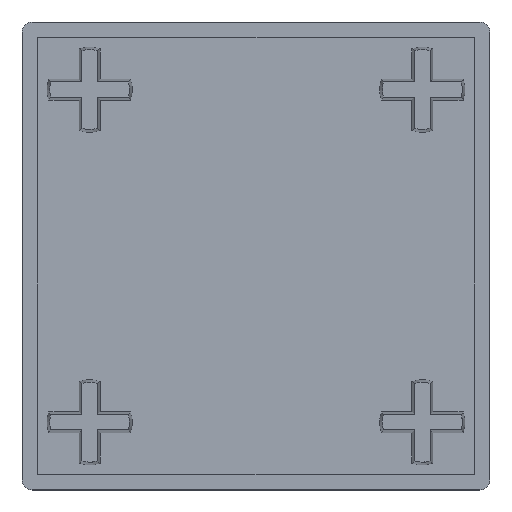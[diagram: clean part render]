
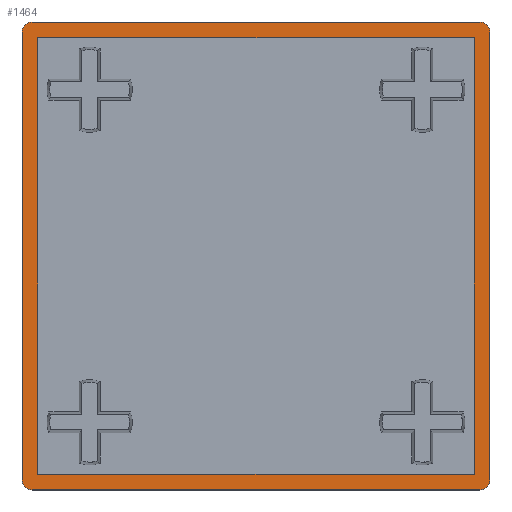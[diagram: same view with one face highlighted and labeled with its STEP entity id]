
A CAD part, top view. The second image highlights one B-rep face of the part: STEP entity #1464.
In plain terms, the highlighted planar face has unit normal (0, 0, 1).
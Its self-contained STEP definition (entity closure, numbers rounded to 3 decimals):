
#2 = VERTEX_POINT ( 'NONE', #1469 ) ;
#30 = DIRECTION ( 'NONE',  ( 0., 0., 1. ) ) ;
#47 = CARTESIAN_POINT ( 'NONE',  ( -21.5, -22.5, 5. ) ) ;
#76 = CARTESIAN_POINT ( 'NONE',  ( 0., 0., 5. ) ) ;
#89 = DIRECTION ( 'NONE',  ( -1., 0., 0. ) ) ;
#90 = ORIENTED_EDGE ( 'NONE', *, *, #896, .T. ) ;
#95 = CARTESIAN_POINT ( 'NONE',  ( -21., 21., 5. ) ) ;
#126 = ORIENTED_EDGE ( 'NONE', *, *, #765, .T. ) ;
#129 = LINE ( 'NONE', #163, #1340 ) ;
#132 = EDGE_CURVE ( 'NONE', #2179, #1301, #2269, .T. ) ;
#141 = DIRECTION ( 'NONE',  ( 0., 1., 0. ) ) ;
#142 = ORIENTED_EDGE ( 'NONE', *, *, #750, .T. ) ;
#163 = CARTESIAN_POINT ( 'NONE',  ( -21., 21., 5. ) ) ;
#287 = CARTESIAN_POINT ( 'NONE',  ( 22.5, 21.5, 5. ) ) ;
#315 = CARTESIAN_POINT ( 'NONE',  ( 21.5, -22.5, 5. ) ) ;
#354 = AXIS2_PLACEMENT_3D ( 'NONE', #76, #2316, #1982 ) ;
#386 = CARTESIAN_POINT ( 'NONE',  ( -22.5, 22.5, 5. ) ) ;
#389 = VECTOR ( 'NONE', #141, 1000. ) ;
#391 = CARTESIAN_POINT ( 'NONE',  ( 21.5, 21.5, 5. ) ) ;
#392 = LINE ( 'NONE', #1937, #1499 ) ;
#412 = ORIENTED_EDGE ( 'NONE', *, *, #1500, .T. ) ;
#456 = FACE_BOUND ( 'NONE', #925, .T. ) ;
#471 = LINE ( 'NONE', #820, #827 ) ;
#485 = CARTESIAN_POINT ( 'NONE',  ( -22.5, -21.5, 5. ) ) ;
#543 = CARTESIAN_POINT ( 'NONE',  ( 21.5, -21.5, 5. ) ) ;
#579 = VERTEX_POINT ( 'NONE', #47 ) ;
#595 = VECTOR ( 'NONE', #795, 1000. ) ;
#637 = VERTEX_POINT ( 'NONE', #1556 ) ;
#641 = PLANE ( 'NONE',  #354 ) ;
#738 = DIRECTION ( 'NONE',  ( 1., 0., 0. ) ) ;
#750 = EDGE_CURVE ( 'NONE', #1301, #579, #2077, .T. ) ;
#751 = VERTEX_POINT ( 'NONE', #955 ) ;
#765 = EDGE_CURVE ( 'NONE', #1147, #751, #2352, .T. ) ;
#784 = LINE ( 'NONE', #2279, #2240 ) ;
#787 = DIRECTION ( 'NONE',  ( 1., 0., 0. ) ) ;
#795 = DIRECTION ( 'NONE',  ( 0., -1., 0. ) ) ;
#796 = DIRECTION ( 'NONE',  ( 0., 1., 0. ) ) ;
#817 = AXIS2_PLACEMENT_3D ( 'NONE', #391, #30, #787 ) ;
#820 = CARTESIAN_POINT ( 'NONE',  ( 22.5, 22.5, 5. ) ) ;
#827 = VECTOR ( 'NONE', #89, 1000. ) ;
#896 = EDGE_CURVE ( 'NONE', #1540, #1356, #1889, .T. ) ;
#899 = EDGE_LOOP ( 'NONE', ( #1354, #126, #2002, #90, #412, #2308, #2138, #142 ) ) ;
#923 = LINE ( 'NONE', #1510, #1399 ) ;
#925 = EDGE_LOOP ( 'NONE', ( #1102, #1484, #1998, #1095 ) ) ;
#955 = CARTESIAN_POINT ( 'NONE',  ( 22.5, -21.5, 5. ) ) ;
#984 = AXIS2_PLACEMENT_3D ( 'NONE', #2433, #2386, #1993 ) ;
#1018 = AXIS2_PLACEMENT_3D ( 'NONE', #543, #1497, #738 ) ;
#1095 = ORIENTED_EDGE ( 'NONE', *, *, #1578, .F. ) ;
#1102 = ORIENTED_EDGE ( 'NONE', *, *, #2134, .F. ) ;
#1147 = VERTEX_POINT ( 'NONE', #315 ) ;
#1196 = EDGE_CURVE ( 'NONE', #1892, #637, #784, .T. ) ;
#1283 = EDGE_CURVE ( 'NONE', #579, #1147, #1332, .T. ) ;
#1296 = CARTESIAN_POINT ( 'NONE',  ( -21.5, 21.5, 5. ) ) ;
#1301 = VERTEX_POINT ( 'NONE', #485 ) ;
#1316 = VERTEX_POINT ( 'NONE', #1996 ) ;
#1332 = LINE ( 'NONE', #1514, #1927 ) ;
#1340 = VECTOR ( 'NONE', #2184, 1000. ) ;
#1354 = ORIENTED_EDGE ( 'NONE', *, *, #1283, .T. ) ;
#1356 = VERTEX_POINT ( 'NONE', #1410 ) ;
#1399 = VECTOR ( 'NONE', #1676, 1000. ) ;
#1410 = CARTESIAN_POINT ( 'NONE',  ( 21.5, 22.5, 5. ) ) ;
#1438 = LINE ( 'NONE', #1467, #389 ) ;
#1464 = ADVANCED_FACE ( 'NONE', ( #456, #1943 ), #641, .T. ) ;
#1467 = CARTESIAN_POINT ( 'NONE',  ( 22.5, -22.5, 5. ) ) ;
#1469 = CARTESIAN_POINT ( 'NONE',  ( -21., -21., 5. ) ) ;
#1484 = ORIENTED_EDGE ( 'NONE', *, *, #1196, .F. ) ;
#1497 = DIRECTION ( 'NONE',  ( 0., 0., 1. ) ) ;
#1498 = DIRECTION ( 'NONE',  ( 1., 0., 0. ) ) ;
#1499 = VECTOR ( 'NONE', #1553, 1000. ) ;
#1500 = EDGE_CURVE ( 'NONE', #1356, #1316, #471, .T. ) ;
#1510 = CARTESIAN_POINT ( 'NONE',  ( 21., 21., 5. ) ) ;
#1514 = CARTESIAN_POINT ( 'NONE',  ( -22.5, -22.5, 5. ) ) ;
#1540 = VERTEX_POINT ( 'NONE', #287 ) ;
#1553 = DIRECTION ( 'NONE',  ( 1., 0., 0. ) ) ;
#1556 = CARTESIAN_POINT ( 'NONE',  ( 21., 21., 5. ) ) ;
#1578 = EDGE_CURVE ( 'NONE', #1935, #2, #129, .T. ) ;
#1651 = DIRECTION ( 'NONE',  ( 0., 0., 1. ) ) ;
#1676 = DIRECTION ( 'NONE',  ( -1., 0., 0. ) ) ;
#1686 = EDGE_CURVE ( 'NONE', #751, #1540, #1438, .T. ) ;
#1793 = CARTESIAN_POINT ( 'NONE',  ( 21., -21., 5. ) ) ;
#1859 = AXIS2_PLACEMENT_3D ( 'NONE', #1296, #1651, #1498 ) ;
#1889 = CIRCLE ( 'NONE', #817, 1. ) ;
#1892 = VERTEX_POINT ( 'NONE', #1793 ) ;
#1927 = VECTOR ( 'NONE', #2270, 1000. ) ;
#1935 = VERTEX_POINT ( 'NONE', #95 ) ;
#1937 = CARTESIAN_POINT ( 'NONE',  ( -21., -21., 5. ) ) ;
#1943 = FACE_OUTER_BOUND ( 'NONE', #899, .T. ) ;
#1982 = DIRECTION ( 'NONE',  ( 1., 0., 0. ) ) ;
#1993 = DIRECTION ( 'NONE',  ( 1., 0., 0. ) ) ;
#1996 = CARTESIAN_POINT ( 'NONE',  ( -21.5, 22.5, 5. ) ) ;
#1998 = ORIENTED_EDGE ( 'NONE', *, *, #2253, .F. ) ;
#2002 = ORIENTED_EDGE ( 'NONE', *, *, #1686, .T. ) ;
#2034 = EDGE_CURVE ( 'NONE', #1316, #2179, #2089, .T. ) ;
#2077 = CIRCLE ( 'NONE', #984, 1. ) ;
#2089 = CIRCLE ( 'NONE', #1859, 1. ) ;
#2100 = CARTESIAN_POINT ( 'NONE',  ( -22.5, 21.5, 5. ) ) ;
#2134 = EDGE_CURVE ( 'NONE', #637, #1935, #923, .T. ) ;
#2138 = ORIENTED_EDGE ( 'NONE', *, *, #132, .T. ) ;
#2179 = VERTEX_POINT ( 'NONE', #2100 ) ;
#2184 = DIRECTION ( 'NONE',  ( 0., -1., 0. ) ) ;
#2240 = VECTOR ( 'NONE', #796, 1000. ) ;
#2253 = EDGE_CURVE ( 'NONE', #2, #1892, #392, .T. ) ;
#2269 = LINE ( 'NONE', #386, #595 ) ;
#2270 = DIRECTION ( 'NONE',  ( 1., 0., 0. ) ) ;
#2279 = CARTESIAN_POINT ( 'NONE',  ( 21., -21., 5. ) ) ;
#2308 = ORIENTED_EDGE ( 'NONE', *, *, #2034, .T. ) ;
#2316 = DIRECTION ( 'NONE',  ( 0., 0., 1. ) ) ;
#2352 = CIRCLE ( 'NONE', #1018, 1. ) ;
#2386 = DIRECTION ( 'NONE',  ( 0., 0., 1. ) ) ;
#2433 = CARTESIAN_POINT ( 'NONE',  ( -21.5, -21.5, 5. ) ) ;
